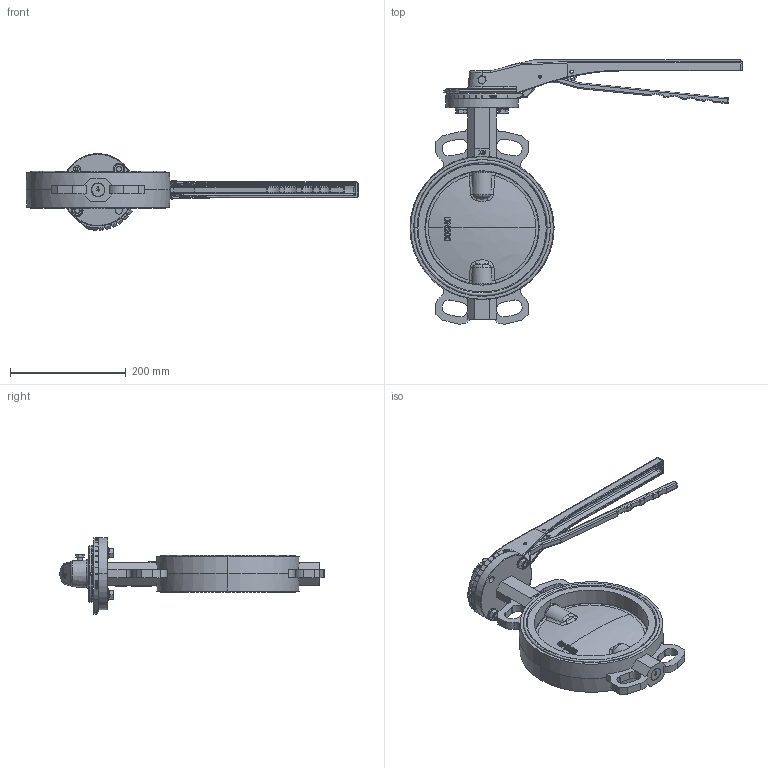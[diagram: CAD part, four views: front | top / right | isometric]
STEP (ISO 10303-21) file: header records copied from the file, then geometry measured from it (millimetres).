
FILE_DESCRIPTION (( 'STEP AP203' ), '1' );
FILE_NAME ('VPI-02 DN200.step', '2016-09-29T12:53:21', ( 'TECOFI' ), ( '' ), 'SwSTEP 2.0', 'SolidWorks 2014', '' );
FILE_SCHEMA (( 'CONFIG_CONTROL_DESIGN' ));
Length unit declared in the file: millimetre
Products named in the file (1): VPI-02 DN200
Bounding box: 574.75 x 457.42 x 132.46 mm (x, y, z)
Volume: 2286670.7 mm3; surface area: 464830.6 mm2
Topology: 17 solids, 17 shells, 1622 faces, 4172 edges, 2587 vertices
Faces by surface type: plane 589, cylinder 415, bspline 394, cone 106, sphere 65, torus 53
Entity records: 70776 total; most frequent: CARTESIAN_POINT 34629, ORIENTED_EDGE 8166, DIRECTION 6594, EDGE_CURVE 4083, VERTEX_POINT 2575, AXIS2_PLACEMENT_3D 2359, LINE 1876, VECTOR 1876
